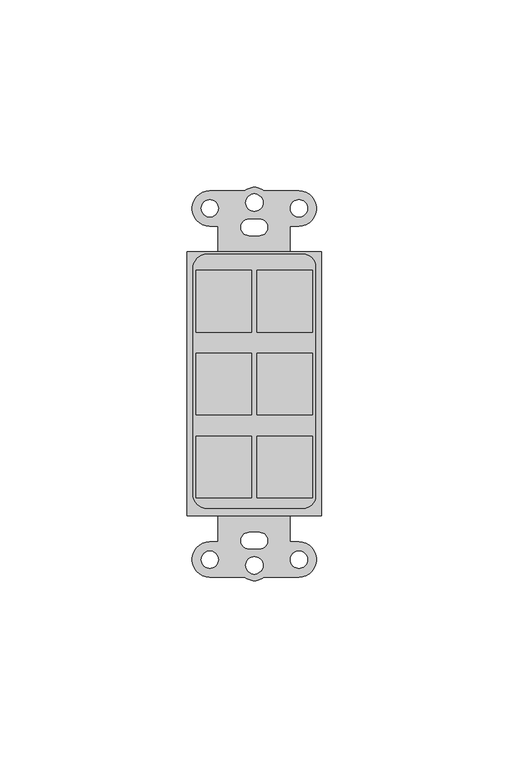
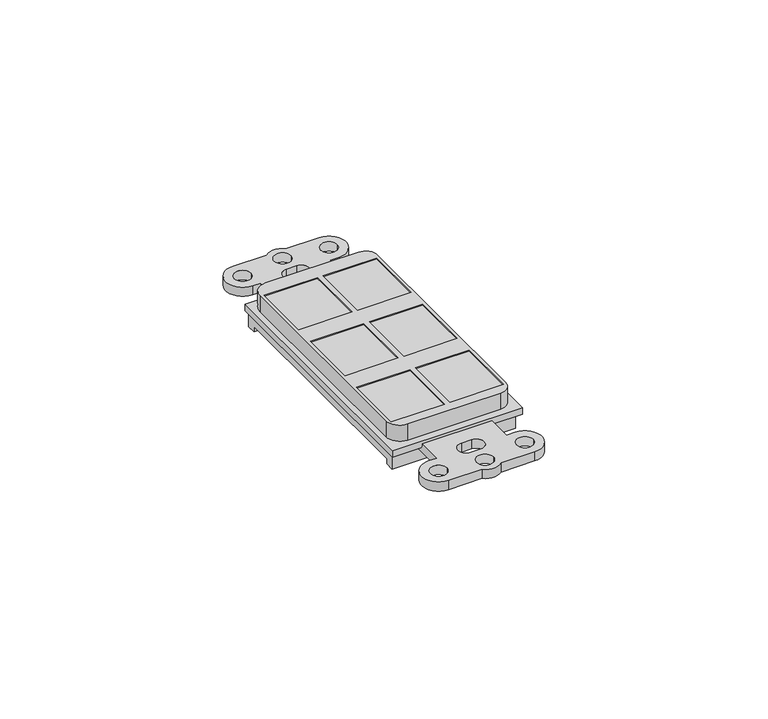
"""IFC4 building model written with IfcOpenShell, lengths in millimetres: electric appliance geometry, Data_Device-Network-Leviton-QuickPort-Duplex : 6-Ports Floor Box Mounting Bezel, Color Black."""

from ifc_helpers import new_model, si_unit, frame, origin, origin_with_axes, place, context, project, spatial, polyline, circle_curve, outline, extrude, source, transform, mapped, element, save
from ifc_brep_helpers import plane_surface, cylinder_surface, revolved_surface, advanced_brep


def electric_appliance_de9a6db4(model_context):
    return source(origin(), model_context, "Body", "SolidModel", [
        advanced_brep(
        [(-10.0194153, 40.0764273, 8.255), (-35.6225625, 40.0764273, 8.255), (-39.4081, 36.2908898, 8.255), (-39.4081, -23.9315727, 8.255), (-35.6225625, -27.7171102, 8.255), (-10.0194153, -27.7171102, 8.255), (-6.6421, -24.3397948, 8.255), (-6.6421, 36.699112, 8.255), (-38.534975, 35.8221502, 8.255), (-23.802975, 35.8221502, 8.255), (-23.802975, 19.3121502, 8.255), (-38.534975, 19.3121502, 8.255), (-38.534975, 13.6955752, 8.255), (-23.802975, 13.6955752, 8.255), (-23.802975, -2.8144248, 8.255), (-38.534975, -2.8144248, 8.255), (-23.802975, -8.4309998, 8.255), (-23.802975, -24.9409998, 8.255), (-38.534975, -24.9409998, 8.255), (-38.534975, -8.4309998, 8.255), (-22.2631, 35.8221502, 8.255), (-7.5311, 35.8221502, 8.255), (-7.5311, 19.3121502, 8.255), (-22.2631, 19.3121502, 8.255), (-22.2631, 13.6955752, 8.255), (-7.5311, 13.6955752, 8.255), (-7.5311, -2.8144248, 8.255), (-22.2631, -2.8144248, 8.255), (-7.5311, -8.4309998, 8.255), (-7.5311, -24.9409998, 8.255), (-22.2631, -24.9409998, 8.255), (-22.2631, -8.4309998, 8.255), (-32.6771, -36.6462175, 2.667), (-34.9256764, -36.6462175, 2.667), (-34.9256764, -46.0442175, 2.667), (-25.6156329, -46.0442175, 2.667), (-20.3869949, -46.0442175, 2.667), (-11.1131764, -46.0442175, 2.667), (-11.1131764, -36.6462175, 2.667), (-13.4944264, -36.6462175, 2.667), (-13.4944264, -29.7247175, 2.667), (-32.6771, -29.7247175, 2.667), (-24.4501, -38.5287175, 2.667), (-24.4501, -34.1287175, 2.667), (-21.6501, -34.1287175, 2.667), (-21.6501, -38.5287175, 2.667), (-37.2116764, -41.3960175, 2.667), (-32.6396764, -41.3960175, 2.667), (-25.3421446, -42.9327175, 2.667), (-20.7080554, -42.9327175, 2.667), (-13.3991764, -41.3960175, 2.667), (-8.8271764, -41.3960175, 2.667), (-13.4944264, 47.5547825, 2.667), (-11.1131764, 47.5547825, 2.667), (-11.1131764, 56.9527825, 2.667), (-20.3869949, 56.9527825, 2.667), (-25.6156329, 56.9527825, 2.667), (-34.9256764, 56.9527825, 2.667), (-34.9256764, 47.5547825, 2.667), (-32.6771, 47.5547825, 2.667), (-32.6771, 40.7159332, 2.667), (-13.4944264, 40.7159332, 2.667), (-24.4501, 49.4372825, 2.667), (-21.6501, 49.4372825, 2.667), (-21.6501, 45.0372825, 2.667), (-24.4501, 45.0372825, 2.667), (-37.2116764, 52.3045825, 2.667), (-32.6396764, 52.3045825, 2.667), (-25.3421446, 53.8412825, 2.667), (-20.7080554, 53.8412825, 2.667), (-13.3991764, 52.3045825, 2.667), (-8.8271764, 52.3045825, 2.667), (-13.4944264, -36.6462175, 0.0), (-11.1131764, -36.6462175, 0.0), (-11.1131764, -46.0442175, 0.0), (-20.3869949, -46.0442175, 0.0), (-25.6156329, -46.0442175, 0.0), (-34.9256764, -46.0442175, 0.0), (-34.9256764, -36.6462175, 0.0), (-32.6771, -36.6462175, 0.0), (-32.6771, -28.0737175, 0.0), (-13.4944264, -28.0737175, 0.0), (-24.4501, -38.5287175, 0.0), (-21.6501, -38.5287175, 0.0), (-21.6501, -34.1287175, 0.0), (-24.4501, -34.1287175, 0.0), (-37.2116764, -41.3960175, 0.0), (-32.6396764, -41.3960175, 0.0), (-25.3421446, -42.9327175, 0.0), (-20.7080554, -42.9327175, 0.0), (-13.3991764, -41.3960175, 0.0), (-8.8271764, -41.3960175, 0.0), (-32.6771, 47.5547825, 0.0), (-34.9256764, 47.5547825, 0.0), (-34.9256764, 56.9527825, 0.0), (-25.6156329, 56.9527825, 0.0), (-20.3869949, 56.9527825, 0.0), (-11.1131764, 56.9527825, 0.0), (-11.1131764, 47.5547825, 0.0), (-13.4944264, 47.5547825, 0.0), (-13.4944264, 40.5062825, 0.0), (-32.6771, 40.5062825, 0.0), (-24.4501, 49.4372825, 0.0), (-24.4501, 45.0372825, 0.0), (-21.6501, 45.0372825, 0.0), (-21.6501, 49.4372825, 0.0), (-37.2116764, 52.3045825, 0.0), (-32.6396764, 52.3045825, 0.0), (-25.3421446, 53.8412825, 0.0), (-20.7080554, 53.8412825, 0.0), (-13.3991764, 52.3045825, 0.0), (-8.8271764, 52.3045825, 0.0), (-32.6771, -29.7247175, 1.651), (-32.6771, -28.0737175, 1.651), (-13.4944264, -28.0737175, 1.651), (-13.4944264, -29.7247175, 1.651), (-13.4944264, 40.7159332, 1.651), (-13.4944264, 40.5062825, 1.651), (-32.6771, 40.5062825, 1.651), (-32.6771, 40.7159332, 1.651), (-10.0194153, 40.0764273, 3.556), (-35.6225625, 40.0764273, 3.556), (-39.4081, 36.2908898, 3.556), (-39.4081, -23.9315727, 3.556), (-35.6225625, -27.7171102, 3.556), (-10.0194153, -27.7171102, 3.556), (-6.6421, -24.3397948, 3.556), (-6.6421, 36.699112, 3.556), (-40.9321, 40.7159332, 3.556), (-40.9321, -29.7247175, 3.556), (-5.1181, -29.7247175, 3.556), (-5.1181, 40.7159332, 3.556), (-5.1181, 40.7159332, 1.651), (-5.1181, -29.7247175, 1.651), (-6.0071, -28.0737175, 1.651), (-6.0071, 40.5062825, 1.651), (-40.9321, -29.7247175, 1.651), (-40.9321, 40.7159332, 1.651), (-40.0431, 40.5062825, 1.651), (-40.0431, -28.0737175, 1.651), (-23.802975, 35.8221502, -1.651), (-38.534975, 35.8221502, -1.651), (-38.534975, 19.3121502, -1.651), (-23.802975, 19.3121502, -1.651), (-23.802975, 13.6955752, -1.651), (-38.534975, 13.6955752, -1.651), (-38.534975, -2.8144248, -1.651), (-23.802975, -2.8144248, -1.651), (-23.802975, -24.9409998, -1.651), (-23.802975, -8.4309998, -1.651), (-38.534975, -8.4309998, -1.651), (-38.534975, -24.9409998, -1.651), (-7.5311, 35.8221502, -1.651), (-22.2631, 35.8221502, -1.651), (-22.2631, 19.3121502, -1.651), (-7.5311, 19.3121502, -1.651), (-7.5311, 13.6955752, -1.651), (-22.2631, 13.6955752, -1.651), (-22.2631, -2.8144248, -1.651), (-7.5311, -2.8144248, -1.651), (-7.5311, -24.9409998, -1.651), (-7.5311, -8.4309998, -1.651), (-22.2631, -8.4309998, -1.651), (-22.2631, -24.9409998, -1.651), (-6.0071, 40.5062825, -3.175), (-6.0071, -28.0737175, -3.175), (-6.0071, -25.5337175, -3.175), (-6.0071, -25.5337175, -1.651), (-6.0071, 37.9662825, -1.651), (-6.0071, 37.9662825, -3.175), (-40.0431, 40.5062825, -3.175), (-40.0431, 37.9662825, -3.175), (-40.0431, 37.9662825, -1.651), (-40.0431, -25.5337175, -1.651), (-40.0431, -25.5337175, -3.175), (-40.0431, -28.0737175, -3.175)],
        [
            (0, 1),
            (1, 2, circle_curve(frame((-35.6225625, 36.2908898, 8.255), z_axis=(0.0, 0.0, 1.0), x_axis=(1.0, 0.0, 0.0)), 3.7855375)),
            (2, 3),
            (3, 4, circle_curve(frame((-35.6225625, -23.9315727, 8.255), z_axis=(0.0, 0.0, 1.0), x_axis=(1.0, 0.0, 0.0)), 3.7855375)),
            (4, 5),
            (5, 6, circle_curve(frame((-10.0194153, -24.3397948, 8.255), z_axis=(0.0, 0.0, 1.0), x_axis=(1.0, 0.0, 0.0)), 3.3773153)),
            (6, 7),
            (7, 0, circle_curve(frame((-10.0194153, 36.699112, 8.255), z_axis=(0.0, 0.0, 1.0), x_axis=(1.0, 0.0, 0.0)), 3.3773153)),
            (8, 9),
            (9, 10),
            (10, 11),
            (11, 8),
            (12, 13),
            (13, 14),
            (14, 15),
            (15, 12),
            (16, 17),
            (17, 18),
            (18, 19),
            (19, 16),
            (20, 21),
            (21, 22),
            (22, 23),
            (23, 20),
            (24, 25),
            (25, 26),
            (26, 27),
            (27, 24),
            (28, 29),
            (29, 30),
            (30, 31),
            (31, 28),
            (32, 33),
            (33, 34, circle_curve(frame((-34.9256764, -41.3452175, 2.667), z_axis=(0.0, 0.0, 1.0), x_axis=(1.0, 0.0, 0.0)), 4.699)),
            (34, 35),
            (35, 36, circle_curve(frame((-23.0013139, -42.9327175, 2.667), z_axis=(0.0, 0.0, 1.0), x_axis=(1.0, 0.0, 0.0)), 4.064)),
            (36, 37),
            (37, 38, circle_curve(frame((-11.1131764, -41.3452175, 2.667), z_axis=(0.0, 0.0, 1.0), x_axis=(1.0, 0.0, 0.0)), 4.699)),
            (38, 39),
            (39, 40),
            (40, 41),
            (41, 32),
            (42, 43, circle_curve(frame((-24.4501, -36.3287175, 2.667), z_axis=(0.0, 0.0, -1.0), x_axis=(1.0, 0.0, 0.0)), 2.2)),
            (43, 44),
            (44, 45, circle_curve(frame((-21.6501, -36.3287175, 2.667), z_axis=(0.0, 0.0, -1.0), x_axis=(1.0, 0.0, 0.0)), 2.2)),
            (45, 42),
            (46, 47, circle_curve(frame((-34.9256764, -41.3960175, 2.667), z_axis=(0.0, 0.0, -1.0), x_axis=(1.0, 0.0, 0.0)), 2.286)),
            (47, 46, circle_curve(frame((-34.9256764, -41.3960175, 2.667), z_axis=(0.0, 0.0, -1.0), x_axis=(1.0, 0.0, 0.0)), 2.286)),
            (48, 49, circle_curve(frame((-23.0251, -42.9327175, 2.667), z_axis=(0.0, 0.0, -1.0), x_axis=(1.0, 0.0, 0.0)), 2.3170446)),
            (49, 48, circle_curve(frame((-23.0251, -42.9327175, 2.667), z_axis=(0.0, 0.0, -1.0), x_axis=(1.0, 0.0, 0.0)), 2.3170446)),
            (50, 51, circle_curve(frame((-11.1131764, -41.3960175, 2.667), z_axis=(0.0, 0.0, -1.0), x_axis=(1.0, 0.0, 0.0)), 2.286)),
            (51, 50, circle_curve(frame((-11.1131764, -41.3960175, 2.667), z_axis=(0.0, 0.0, -1.0), x_axis=(1.0, 0.0, 0.0)), 2.286)),
            (52, 53),
            (53, 54, circle_curve(frame((-11.1131764, 52.2537825, 2.667), z_axis=(0.0, 0.0, 1.0), x_axis=(1.0, 0.0, 0.0)), 4.699)),
            (54, 55),
            (55, 56, circle_curve(frame((-23.0013139, 53.8412825, 2.667), z_axis=(0.0, 0.0, 1.0), x_axis=(1.0, 0.0, 0.0)), 4.064)),
            (56, 57),
            (57, 58, circle_curve(frame((-34.9256764, 52.2537825, 2.667), z_axis=(0.0, 0.0, 1.0), x_axis=(1.0, 0.0, 0.0)), 4.699)),
            (58, 59),
            (59, 60),
            (60, 61),
            (61, 52),
            (62, 63),
            (63, 64, circle_curve(frame((-21.6501, 47.2372825, 2.667), z_axis=(0.0, 0.0, -1.0), x_axis=(1.0, 0.0, 0.0)), 2.2)),
            (64, 65),
            (65, 62, circle_curve(frame((-24.4501, 47.2372825, 2.667), z_axis=(0.0, 0.0, -1.0), x_axis=(1.0, 0.0, 0.0)), 2.2)),
            (66, 67, circle_curve(frame((-34.9256764, 52.3045825, 2.667), z_axis=(0.0, 0.0, -1.0), x_axis=(1.0, 0.0, 0.0)), 2.286)),
            (67, 66, circle_curve(frame((-34.9256764, 52.3045825, 2.667), z_axis=(0.0, 0.0, -1.0), x_axis=(1.0, 0.0, 0.0)), 2.286)),
            (68, 69, circle_curve(frame((-23.0251, 53.8412825, 2.667), z_axis=(0.0, 0.0, -1.0), x_axis=(1.0, 0.0, 0.0)), 2.3170446)),
            (69, 68, circle_curve(frame((-23.0251, 53.8412825, 2.667), z_axis=(0.0, 0.0, -1.0), x_axis=(1.0, 0.0, 0.0)), 2.3170446)),
            (70, 71, circle_curve(frame((-11.1131764, 52.3045825, 2.667), z_axis=(0.0, 0.0, -1.0), x_axis=(1.0, 0.0, 0.0)), 2.286)),
            (71, 70, circle_curve(frame((-11.1131764, 52.3045825, 2.667), z_axis=(0.0, 0.0, -1.0), x_axis=(1.0, 0.0, 0.0)), 2.286)),
            (72, 73),
            (73, 74, circle_curve(frame((-11.1131764, -41.3452175, 0.0), z_axis=(0.0, 0.0, -1.0), x_axis=(1.0, 0.0, 0.0)), 4.699)),
            (74, 75),
            (75, 76, circle_curve(frame((-23.0013139, -42.9327175, 0.0), z_axis=(0.0, 0.0, -1.0), x_axis=(1.0, 0.0, 0.0)), 4.064)),
            (76, 77),
            (77, 78, circle_curve(frame((-34.9256764, -41.3452175, 0.0), z_axis=(0.0, 0.0, -1.0), x_axis=(1.0, 0.0, 0.0)), 4.699)),
            (78, 79),
            (79, 80),
            (80, 81),
            (81, 72),
            (82, 83),
            (83, 84, circle_curve(frame((-21.6501, -36.3287175, 0.0), z_axis=(0.0, 0.0, 1.0), x_axis=(1.0, 0.0, 0.0)), 2.2)),
            (84, 85),
            (85, 82, circle_curve(frame((-24.4501, -36.3287175, 0.0), z_axis=(0.0, 0.0, 1.0), x_axis=(1.0, 0.0, 0.0)), 2.2)),
            (86, 87, circle_curve(frame((-34.9256764, -41.3960175, 0.0), z_axis=(0.0, 0.0, 1.0), x_axis=(1.0, 0.0, 0.0)), 2.286)),
            (87, 86, circle_curve(frame((-34.9256764, -41.3960175, 0.0), z_axis=(0.0, 0.0, 1.0), x_axis=(1.0, 0.0, 0.0)), 2.286)),
            (88, 89, circle_curve(frame((-23.0251, -42.9327175, 0.0), z_axis=(0.0, 0.0, 1.0), x_axis=(1.0, 0.0, 0.0)), 2.3170446)),
            (89, 88, circle_curve(frame((-23.0251, -42.9327175, 0.0), z_axis=(0.0, 0.0, 1.0), x_axis=(1.0, 0.0, 0.0)), 2.3170446)),
            (90, 91, circle_curve(frame((-11.1131764, -41.3960175, 0.0), z_axis=(0.0, 0.0, 1.0), x_axis=(1.0, 0.0, 0.0)), 2.286)),
            (91, 90, circle_curve(frame((-11.1131764, -41.3960175, 0.0), z_axis=(0.0, 0.0, 1.0), x_axis=(1.0, 0.0, 0.0)), 2.286)),
            (92, 93),
            (93, 94, circle_curve(frame((-34.9256764, 52.2537825, 0.0), z_axis=(0.0, 0.0, -1.0), x_axis=(1.0, 0.0, 0.0)), 4.699)),
            (94, 95),
            (95, 96, circle_curve(frame((-23.0013139, 53.8412825, 0.0), z_axis=(0.0, 0.0, -1.0), x_axis=(1.0, 0.0, 0.0)), 4.064)),
            (96, 97),
            (97, 98, circle_curve(frame((-11.1131764, 52.2537825, 0.0), z_axis=(0.0, 0.0, -1.0), x_axis=(1.0, 0.0, 0.0)), 4.699)),
            (98, 99),
            (99, 100),
            (100, 101),
            (101, 92),
            (102, 103, circle_curve(frame((-24.4501, 47.2372825, 0.0), z_axis=(0.0, 0.0, 1.0), x_axis=(1.0, 0.0, 0.0)), 2.2)),
            (103, 104),
            (104, 105, circle_curve(frame((-21.6501, 47.2372825, 0.0), z_axis=(0.0, 0.0, 1.0), x_axis=(1.0, 0.0, 0.0)), 2.2)),
            (105, 102),
            (106, 107, circle_curve(frame((-34.9256764, 52.3045825, 0.0), z_axis=(0.0, 0.0, 1.0), x_axis=(1.0, 0.0, 0.0)), 2.286)),
            (107, 106, circle_curve(frame((-34.9256764, 52.3045825, 0.0), z_axis=(0.0, 0.0, 1.0), x_axis=(1.0, 0.0, 0.0)), 2.286)),
            (108, 109, circle_curve(frame((-23.0251, 53.8412825, 0.0), z_axis=(0.0, 0.0, 1.0), x_axis=(1.0, 0.0, 0.0)), 2.3170446)),
            (109, 108, circle_curve(frame((-23.0251, 53.8412825, 0.0), z_axis=(0.0, 0.0, 1.0), x_axis=(1.0, 0.0, 0.0)), 2.3170446)),
            (110, 111, circle_curve(frame((-11.1131764, 52.3045825, 0.0), z_axis=(0.0, 0.0, 1.0), x_axis=(1.0, 0.0, 0.0)), 2.286)),
            (111, 110, circle_curve(frame((-11.1131764, 52.3045825, 0.0), z_axis=(0.0, 0.0, 1.0), x_axis=(1.0, 0.0, 0.0)), 2.286)),
            (42, 82),
            (85, 43),
            (84, 44),
            (83, 45),
            (62, 102),
            (105, 63),
            (104, 64),
            (103, 65),
            (79, 32),
            (41, 112),
            (112, 113),
            (113, 80),
            (78, 33),
            (77, 34),
            (76, 35),
            (75, 36),
            (74, 37),
            (73, 38),
            (72, 39),
            (81, 114),
            (114, 115),
            (115, 40),
            (46, 86),
            (87, 47),
            (48, 88),
            (89, 49),
            (50, 90),
            (91, 51),
            (99, 52),
            (61, 116),
            (116, 117),
            (117, 100),
            (98, 53),
            (97, 54),
            (96, 55),
            (95, 56),
            (94, 57),
            (93, 58),
            (92, 59),
            (101, 118),
            (118, 119),
            (119, 60),
            (66, 106),
            (107, 67),
            (68, 108),
            (109, 69),
            (70, 110),
            (111, 71),
            (0, 120),
            (120, 121),
            (121, 1),
            (121, 122, circle_curve(frame((-35.6225625, 36.2908898, 3.556), z_axis=(0.0, 0.0, 1.0), x_axis=(1.0, 0.0, 0.0)), 3.7855375)),
            (122, 2),
            (122, 123),
            (123, 3),
            (123, 124, circle_curve(frame((-35.6225625, -23.9315727, 3.556), z_axis=(0.0, 0.0, 1.0), x_axis=(1.0, 0.0, 0.0)), 3.7855375)),
            (124, 4),
            (124, 125),
            (125, 5),
            (125, 126, circle_curve(frame((-10.0194153, -24.3397948, 3.556), z_axis=(0.0, 0.0, 1.0), x_axis=(1.0, 0.0, 0.0)), 3.3773153)),
            (126, 6),
            (126, 127),
            (127, 7),
            (127, 120, circle_curve(frame((-10.0194153, 36.699112, 3.556), z_axis=(0.0, 0.0, 1.0), x_axis=(1.0, 0.0, 0.0)), 3.3773153)),
            (128, 129),
            (129, 130),
            (130, 131),
            (131, 128),
            (132, 133),
            (133, 115),
            (114, 134),
            (134, 135),
            (135, 117),
            (116, 132),
            (136, 137),
            (137, 119),
            (118, 138),
            (138, 139),
            (139, 113),
            (112, 136),
            (128, 137),
            (136, 129),
            (133, 130),
            (132, 131),
            (140, 9),
            (8, 141),
            (141, 140),
            (11, 142),
            (142, 141),
            (10, 143),
            (143, 142),
            (140, 143),
            (144, 13),
            (12, 145),
            (145, 144),
            (15, 146),
            (146, 145),
            (14, 147),
            (147, 146),
            (144, 147),
            (148, 17),
            (16, 149),
            (149, 148),
            (19, 150),
            (150, 149),
            (18, 151),
            (151, 150),
            (148, 151),
            (152, 21),
            (20, 153),
            (153, 152),
            (23, 154),
            (154, 153),
            (22, 155),
            (155, 154),
            (152, 155),
            (156, 25),
            (24, 157),
            (157, 156),
            (27, 158),
            (158, 157),
            (26, 159),
            (159, 158),
            (156, 159),
            (160, 29),
            (28, 161),
            (161, 160),
            (31, 162),
            (162, 161),
            (30, 163),
            (163, 162),
            (160, 163),
            (164, 135),
            (134, 165),
            (165, 166),
            (166, 167),
            (167, 168),
            (168, 169),
            (169, 164),
            (170, 171),
            (171, 172),
            (172, 173),
            (173, 174),
            (174, 175),
            (175, 139),
            (138, 170),
            (164, 170),
            (175, 165),
            (174, 166),
            (173, 167),
            (172, 168),
            (171, 169),
        ],
        [
            plane_surface(frame((-35.6225625, 40.0764273, 8.255), z_axis=(0.0, 0.0, 1.0), x_axis=(-1.0, 0.0, 0.0))),
            plane_surface(frame((-22.2501, -36.3287175, 2.667), z_axis=(0.0, 0.0, 1.0), x_axis=(0.0, -1.0, 0.0))),
            plane_surface(frame((-22.2501, -36.3287175, 0.0), z_axis=(0.0, 0.0, -1.0), x_axis=(0.0, 1.0, 0.0))),
            revolved_surface(polyline([(-22.2501, -36.3287175, 0.0), (-22.2501, -36.3287175, 2.667)]), (-24.4501, -36.3287175, 0.0), (0.0, 0.0, -1.0)),
            plane_surface(frame((-24.4501, -34.1287175, 2.667), z_axis=(0.0, -1.0, 0.0), x_axis=(0.0, 0.0, -1.0))),
            revolved_surface(polyline([(-19.4501, -36.3287175, 0.0), (-19.4501, -36.3287175, 2.667)]), (-21.6501, -36.3287175, 0.0), (0.0, 0.0, -1.0)),
            plane_surface(frame((-21.6501, -38.5287175, 2.667), z_axis=(0.0, 1.0, 0.0), x_axis=(0.0, 0.0, -1.0))),
            plane_surface(frame((-24.4501, 49.4372825, 2.667), z_axis=(0.0, -1.0, 0.0), x_axis=(0.0, 0.0, -1.0))),
            revolved_surface(polyline([(-19.4501, 47.2372825, 0.0), (-19.4501, 47.2372825, 2.667)]), (-21.6501, 47.2372825, 0.0), (0.0, 0.0, -1.0)),
            plane_surface(frame((-21.6501, 45.0372825, 2.667), z_axis=(0.0, 1.0, 0.0), x_axis=(0.0, 0.0, -1.0))),
            revolved_surface(polyline([(-22.2501, 47.2372825, 0.0), (-22.2501, 47.2372825, 2.667)]), (-24.4501, 47.2372825, 0.0), (0.0, 0.0, -1.0)),
            plane_surface(frame((-32.6771, -25.4893681, 2.667), z_axis=(-1.0, 0.0, 0.0), x_axis=(0.0, 0.0, -1.0))),
            plane_surface(frame((-32.6771, -36.6462175, 2.667), z_axis=(0.0, 1.0, 0.0), x_axis=(0.0, 0.0, -1.0))),
            cylinder_surface(frame((-34.9256764, -41.3452175, 0.0), z_axis=(0.0, 0.0, 1.0), x_axis=(1.0, 0.0, 0.0)), 4.699),
            plane_surface(frame((-34.9256764, -46.0442175, 2.667), z_axis=(0.0, -1.0, 0.0), x_axis=(0.0, 0.0, -1.0))),
            cylinder_surface(frame((-23.0013139, -42.9327175, 0.0), z_axis=(0.0, 0.0, 1.0), x_axis=(1.0, 0.0, 0.0)), 4.064),
            plane_surface(frame((-20.3869949, -46.0442175, 2.667), z_axis=(0.0, -1.0, 0.0), x_axis=(0.0, 0.0, -1.0))),
            cylinder_surface(frame((-11.1131764, -41.3452175, 0.0), z_axis=(0.0, 0.0, 1.0), x_axis=(1.0, 0.0, 0.0)), 4.699),
            plane_surface(frame((-11.1131764, -36.6462175, 2.667), z_axis=(-1.119104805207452e-12, 1.0, 0.0), x_axis=(0.0, 0.0, -1.0))),
            plane_surface(frame((-13.4944264, -36.6462175, 2.667), z_axis=(1.0, 0.0, 0.0), x_axis=(0.0, 0.0, -1.0))),
            revolved_surface(polyline([(-32.6396764, -41.3960175, 0.0), (-32.6396764, -41.3960175, 2.667)]), (-34.9256764, -41.3960175, 0.0), (0.0, 0.0, -1.0)),
            revolved_surface(polyline([(-20.7080554, -42.9327175, 0.0), (-20.7080554, -42.9327175, 2.667)]), (-23.0251, -42.9327175, 0.0), (0.0, 0.0, -1.0)),
            revolved_surface(polyline([(-8.8271764, -41.3960175, 0.0), (-8.8271764, -41.3960175, 2.667)]), (-11.1131764, -41.3960175, 0.0), (0.0, 0.0, -1.0)),
            plane_surface(frame((-13.4944264, 36.3979332, 2.667), z_axis=(1.0, 0.0, 0.0), x_axis=(0.0, 0.0, -1.0))),
            plane_surface(frame((-13.4944264, 47.5547825, 2.667), z_axis=(1.1581846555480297e-12, -1.0, 0.0), x_axis=(0.0, 0.0, -1.0))),
            cylinder_surface(frame((-11.1131764, 52.2537825, 0.0), z_axis=(0.0, 0.0, 1.0), x_axis=(1.0, 0.0, 0.0)), 4.699),
            plane_surface(frame((-11.1131764, 56.9527825, 2.667), z_axis=(0.0, 1.0, 0.0), x_axis=(0.0, 0.0, -1.0))),
            cylinder_surface(frame((-23.0013139, 53.8412825, 0.0), z_axis=(0.0, 0.0, 1.0), x_axis=(1.0, 0.0, 0.0)), 4.064),
            plane_surface(frame((-25.6156329, 56.9527825, 2.667), z_axis=(0.0, 1.0, 0.0), x_axis=(0.0, 0.0, -1.0))),
            cylinder_surface(frame((-34.9256764, 52.2537825, 0.0), z_axis=(0.0, 0.0, 1.0), x_axis=(1.0, 0.0, 0.0)), 4.699),
            plane_surface(frame((-34.9256764, 47.5547825, 2.667), z_axis=(0.0, -1.0, 0.0), x_axis=(0.0, 0.0, -1.0))),
            plane_surface(frame((-32.6771, 47.5547825, 2.667), z_axis=(-1.0, 0.0, 0.0), x_axis=(0.0, 0.0, -1.0))),
            revolved_surface(polyline([(-32.6396764, 52.3045825, 0.0), (-32.6396764, 52.3045825, 2.667)]), (-34.9256764, 52.3045825, 0.0), (0.0, 0.0, -1.0)),
            revolved_surface(polyline([(-20.7080554, 53.8412825, 0.0), (-20.7080554, 53.8412825, 2.667)]), (-23.0251, 53.8412825, 0.0), (0.0, 0.0, -1.0)),
            revolved_surface(polyline([(-8.8271764, 52.3045825, 0.0), (-8.8271764, 52.3045825, 2.667)]), (-11.1131764, 52.3045825, 0.0), (0.0, 0.0, -1.0)),
            plane_surface(frame((-10.0194153, 40.0764273, 8.255), z_axis=(0.0, 1.0, 0.0), x_axis=(0.0, 0.0, -1.0))),
            cylinder_surface(frame((-35.6225625, 36.2908898, 3.556), z_axis=(0.0, 0.0, 1.0), x_axis=(1.0, 0.0, 0.0)), 3.7855375),
            plane_surface(frame((-39.4081, 36.2908898, 8.255), z_axis=(-1.0, 0.0, 0.0), x_axis=(0.0, 0.0, -1.0))),
            cylinder_surface(frame((-35.6225625, -23.9315727, 3.556), z_axis=(0.0, 0.0, 1.0), x_axis=(1.0, 0.0, 0.0)), 3.7855375),
            plane_surface(frame((-35.6225625, -27.7171102, 8.255), z_axis=(0.0, -1.0, 0.0), x_axis=(0.0, 0.0, -1.0))),
            cylinder_surface(frame((-10.0194153, -24.3397948, 3.556), z_axis=(0.0, 0.0, 1.0), x_axis=(1.0, 0.0, 0.0)), 3.3773153),
            plane_surface(frame((-6.6421, -24.3397948, 8.255), z_axis=(1.0, 0.0, 0.0), x_axis=(0.0, 0.0, -1.0))),
            cylinder_surface(frame((-10.0194153, 36.699112, 3.556), z_axis=(0.0, 0.0, 1.0), x_axis=(1.0, 0.0, 0.0)), 3.3773153),
            plane_surface(frame((-40.9321, -28.9627175, 3.556), z_axis=(0.0, 0.0, 1.0), x_axis=(0.0, -1.0, 0.0))),
            plane_surface(frame((-40.9321, -28.9627175, 1.651), z_axis=(0.0, 0.0, -1.0), x_axis=(0.0, 1.0, 0.0))),
            plane_surface(frame((-40.9321, 40.7159332, 3.556), z_axis=(-1.0, 0.0, 0.0), x_axis=(0.0, 0.0, -1.0))),
            plane_surface(frame((-40.9321, -29.7247175, 3.556), z_axis=(0.0, -1.0, 0.0), x_axis=(0.0, 0.0, -1.0))),
            plane_surface(frame((-5.1181, -29.7247175, 3.556), z_axis=(1.0, 0.0, 0.0), x_axis=(0.0, 0.0, -1.0))),
            plane_surface(frame((-5.1181, 40.7159332, 3.556), z_axis=(0.0, 1.0, 0.0), x_axis=(0.0, 0.0, -1.0))),
            plane_surface(frame((-23.802975, 35.8221502, 8.255), z_axis=(0.0, -1.0, 0.0), x_axis=(0.0, 0.0, -1.0))),
            plane_surface(frame((-38.534975, 35.8221502, 8.255), z_axis=(1.0, 0.0, 0.0), x_axis=(0.0, 0.0, -1.0))),
            plane_surface(frame((-38.534975, 19.3121502, 8.255), z_axis=(0.0, 1.0, 0.0), x_axis=(0.0, 0.0, -1.0))),
            plane_surface(frame((-23.802975, 19.3121502, 8.255), z_axis=(-1.0, 0.0, 0.0), x_axis=(0.0, 0.0, -1.0))),
            plane_surface(frame((-23.802975, 13.6955752, 8.255), z_axis=(0.0, -1.0, 0.0), x_axis=(0.0, 0.0, -1.0))),
            plane_surface(frame((-38.534975, 13.6955752, 8.255), z_axis=(1.0, 0.0, 0.0), x_axis=(0.0, 0.0, -1.0))),
            plane_surface(frame((-38.534975, -2.8144248, 8.255), z_axis=(0.0, 1.0, 0.0), x_axis=(0.0, 0.0, -1.0))),
            plane_surface(frame((-23.802975, -2.8144248, 8.255), z_axis=(-1.0, 0.0, 0.0), x_axis=(0.0, 0.0, -1.0))),
            plane_surface(frame((-23.802975, -24.9409998, 8.255), z_axis=(-1.0, 0.0, 0.0), x_axis=(0.0, 0.0, -1.0))),
            plane_surface(frame((-23.802975, -8.4309998, 8.255), z_axis=(0.0, -1.0, 0.0), x_axis=(0.0, 0.0, -1.0))),
            plane_surface(frame((-38.534975, -8.4309998, 8.255), z_axis=(1.0, 0.0, 0.0), x_axis=(0.0, 0.0, -1.0))),
            plane_surface(frame((-38.534975, -24.9409998, 8.255), z_axis=(0.0, 1.0, 0.0), x_axis=(0.0, 0.0, -1.0))),
            plane_surface(frame((-7.5311, 35.8221502, 8.255), z_axis=(0.0, -1.0, 0.0), x_axis=(0.0, 0.0, -1.0))),
            plane_surface(frame((-22.2631, 35.8221502, 8.255), z_axis=(1.0, 0.0, 0.0), x_axis=(0.0, 0.0, -1.0))),
            plane_surface(frame((-22.2631, 19.3121502, 8.255), z_axis=(0.0, 1.0, 0.0), x_axis=(0.0, 0.0, -1.0))),
            plane_surface(frame((-7.5311, 19.3121502, 8.255), z_axis=(-1.0, 0.0, 0.0), x_axis=(0.0, 0.0, -1.0))),
            plane_surface(frame((-7.5311, 13.6955752, 8.255), z_axis=(0.0, -1.0, 0.0), x_axis=(0.0, 0.0, -1.0))),
            plane_surface(frame((-22.2631, 13.6955752, 8.255), z_axis=(1.0, 0.0, 0.0), x_axis=(0.0, 0.0, -1.0))),
            plane_surface(frame((-22.2631, -2.8144248, 8.255), z_axis=(0.0, 1.0, 0.0), x_axis=(0.0, 0.0, -1.0))),
            plane_surface(frame((-7.5311, -2.8144248, 8.255), z_axis=(-1.0, 0.0, 0.0), x_axis=(0.0, 0.0, -1.0))),
            plane_surface(frame((-7.5311, -24.9409998, 8.255), z_axis=(-1.0, 0.0, 0.0), x_axis=(0.0, 0.0, -1.0))),
            plane_surface(frame((-7.5311, -8.4309998, 8.255), z_axis=(0.0, -1.0, 0.0), x_axis=(0.0, 0.0, -1.0))),
            plane_surface(frame((-22.2631, -8.4309998, 8.255), z_axis=(1.0, 0.0, 0.0), x_axis=(0.0, 0.0, -1.0))),
            plane_surface(frame((-22.2631, -24.9409998, 8.255), z_axis=(0.0, 1.0, 0.0), x_axis=(0.0, 0.0, -1.0))),
            plane_surface(frame((-6.0071, 40.5062825, 1.651), z_axis=(1.0, 0.0, 0.0), x_axis=(0.0, 0.0, 1.0))),
            plane_surface(frame((-40.0431, 40.5062825, 1.651), z_axis=(-1.0, 0.0, 0.0), x_axis=(0.0, 0.0, -1.0))),
            plane_surface(frame((-6.0071, 40.5062825, -3.175), z_axis=(0.0, 1.0, 0.0), x_axis=(-1.0, 0.0, 0.0))),
            plane_surface(frame((-6.0071, -28.0737175, 1.651), z_axis=(0.0, -1.0, 0.0), x_axis=(-1.0, 0.0, 0.0))),
            plane_surface(frame((-6.0071, -28.0737175, -3.175), z_axis=(0.0, 0.0, -1.0), x_axis=(-1.0, 0.0, 0.0))),
            plane_surface(frame((-6.0071, -25.5337175, -3.175), z_axis=(0.0, 1.0, 0.0), x_axis=(-1.0, 0.0, 0.0))),
            plane_surface(frame((-6.0071, -25.5337175, -1.651), z_axis=(0.0, 0.0, -1.0), x_axis=(-1.0, 0.0, 0.0))),
            plane_surface(frame((-6.0071, 37.9662825, -1.651), z_axis=(0.0, -1.0, 0.0), x_axis=(-1.0, 0.0, 0.0))),
            plane_surface(frame((-6.0071, 37.9662825, -3.175), z_axis=(0.0, 0.0, -1.0), x_axis=(-1.0, 0.0, 0.0))),
        ],
        [
            (0, [[1, 2, 3, 4, 5, 6, 7, 8], [9, 10, 11, 12], [13, 14, 15, 16], [17, 18, 19, 20], [21, 22, 23, 24], [25, 26, 27, 28], [29, 30, 31, 32]]),
            (1, [[33, 34, 35, 36, 37, 38, 39, 40, 41, 42], [43, 44, 45, 46], [47, 48], [49, 50], [51, 52]]),
            (1, [[53, 54, 55, 56, 57, 58, 59, 60, 61, 62], [63, 64, 65, 66], [67, 68], [69, 70], [71, 72]]),
            (2, [[73, 74, 75, 76, 77, 78, 79, 80, 81, 82], [83, 84, 85, 86], [87, 88], [89, 90], [91, 92]]),
            (2, [[93, 94, 95, 96, 97, 98, 99, 100, 101, 102], [103, 104, 105, 106], [107, 108], [109, 110], [111, 112]]),
            (3, [[-43, 113, -86, 114]]),
            (4, [[-44, -114, -85, 115]]),
            (5, [[-45, -115, -84, 116]]),
            (6, [[-46, -116, -83, -113]]),
            (7, [[-63, 117, -106, 118]]),
            (8, [[-64, -118, -105, 119]]),
            (9, [[-65, -119, -104, 120]]),
            (10, [[-66, -120, -103, -117]]),
            (11, [[121, -42, 122, 123, 124, -80]]),
            (12, [[-33, -121, -79, 125]]),
            (13, [[-34, -125, -78, 126]]),
            (14, [[-35, -126, -77, 127]]),
            (15, [[-36, -127, -76, 128]]),
            (16, [[-37, -128, -75, 129]]),
            (17, [[-38, -129, -74, 130]]),
            (18, [[-39, -130, -73, 131]]),
            (19, [[-131, -82, 132, 133, 134, -40]]),
            (20, [[-47, 135, -88, 136]]),
            (20, [[-48, -136, -87, -135]]),
            (21, [[-49, 137, -90, 138]]),
            (21, [[-50, -138, -89, -137]]),
            (22, [[-51, 139, -92, 140]]),
            (22, [[-52, -140, -91, -139]]),
            (23, [[141, -62, 142, 143, 144, -100]]),
            (24, [[-53, -141, -99, 145]]),
            (25, [[-54, -145, -98, 146]]),
            (26, [[-55, -146, -97, 147]]),
            (27, [[-56, -147, -96, 148]]),
            (28, [[-57, -148, -95, 149]]),
            (29, [[-58, -149, -94, 150]]),
            (30, [[-59, -150, -93, 151]]),
            (31, [[-151, -102, 152, 153, 154, -60]]),
            (32, [[-67, 155, -108, 156]]),
            (32, [[-68, -156, -107, -155]]),
            (33, [[-69, 157, -110, 158]]),
            (33, [[-70, -158, -109, -157]]),
            (34, [[-71, 159, -112, 160]]),
            (34, [[-72, -160, -111, -159]]),
            (35, [[-1, 161, 162, 163]]),
            (36, [[-2, -163, 164, 165]]),
            (37, [[-3, -165, 166, 167]]),
            (38, [[-4, -167, 168, 169]]),
            (39, [[-5, -169, 170, 171]]),
            (40, [[-6, -171, 172, 173]]),
            (41, [[-7, -173, 174, 175]]),
            (42, [[-8, -175, 176, -161]]),
            (43, [[177, 178, 179, 180], [-162, -176, -174, -172, -170, -168, -166, -164]]),
            (44, [[181, 182, -133, 183, 184, 185, -143, 186]]),
            (44, [[187, 188, -153, 189, 190, 191, -123, 192]]),
            (45, [[-177, 193, -187, 194]]),
            (46, [[-178, -194, -192, -122, -41, -134, -182, 195]]),
            (47, [[-179, -195, -181, 196]]),
            (48, [[-180, -196, -186, -142, -61, -154, -188, -193]]),
            (49, [[197, -9, 198, 199]]),
            (50, [[-198, -12, 200, 201]]),
            (51, [[-200, -11, 202, 203]]),
            (52, [[-197, 204, -202, -10]]),
            (53, [[205, -13, 206, 207]]),
            (54, [[-206, -16, 208, 209]]),
            (55, [[-208, -15, 210, 211]]),
            (56, [[-205, 212, -210, -14]]),
            (57, [[213, -17, 214, 215]]),
            (58, [[-214, -20, 216, 217]]),
            (59, [[-216, -19, 218, 219]]),
            (60, [[-213, 220, -218, -18]]),
            (61, [[221, -21, 222, 223]]),
            (62, [[-222, -24, 224, 225]]),
            (63, [[-224, -23, 226, 227]]),
            (64, [[-221, 228, -226, -22]]),
            (65, [[229, -25, 230, 231]]),
            (66, [[-230, -28, 232, 233]]),
            (67, [[-232, -27, 234, 235]]),
            (68, [[-229, 236, -234, -26]]),
            (69, [[237, -29, 238, 239]]),
            (70, [[-238, -32, 240, 241]]),
            (71, [[-240, -31, 242, 243]]),
            (72, [[-237, 244, -242, -30]]),
            (73, [[245, -184, 246, 247, 248, 249, 250, 251]]),
            (74, [[252, 253, 254, 255, 256, 257, -190, 258]]),
            (75, [[-245, 259, -258, -189, -152, -101, -144, -185]]),
            (76, [[-246, -183, -132, -81, -124, -191, -257, 260]]),
            (77, [[-247, -260, -256, 261]]),
            (78, [[-248, -261, -255, 262]]),
            (79, [[-249, -262, -254, 263], [-199, -201, -203, -204], [-207, -209, -211, -212], [-215, -217, -219, -220], [-223, -225, -227, -228], [-231, -233, -235, -236], [-239, -241, -243, -244]]),
            (80, [[-250, -263, -253, 264]]),
            (81, [[-251, -264, -252, -259]]),
        ],
    ),
        extrude(outline(polyline([(-38.534975, 35.8221502), (-23.802975, 35.8221502), (-23.802975, 19.3121502), (-38.534975, 19.3121502), (-38.534975, 35.8221502)])), origin_with_axes(), (0.0, 0.0, 1.0), 8.255),
        extrude(outline(polyline([(-22.2631, 35.8221502), (-7.5311, 35.8221502), (-7.5311, 19.3121502), (-22.2631, 19.3121502), (-22.2631, 35.8221502)])), origin_with_axes(), (0.0, 0.0, 1.0), 8.255),
        extrude(outline(polyline([(-22.2631, 13.6955752), (-7.5311, 13.6955752), (-7.5311, -2.8144248), (-22.2631, -2.8144248), (-22.2631, 13.6955752)])), origin_with_axes(), (0.0, 0.0, 1.0), 8.255),
        extrude(outline(polyline([(-23.802975, 13.6955752), (-23.802975, -2.8144248), (-38.534975, -2.8144248), (-38.534975, 13.6955752), (-23.802975, 13.6955752)])), origin_with_axes(), (0.0, 0.0, 1.0), 8.255),
        extrude(outline(polyline([(-38.534975, -24.9409998), (-38.534975, -8.4309998), (-23.802975, -8.4309998), (-23.802975, -24.9409998), (-38.534975, -24.9409998)])), origin_with_axes(), (0.0, 0.0, 1.0), 8.255),
        extrude(outline(polyline([(-22.2631, -24.9409998), (-22.2631, -8.4309998), (-7.5311, -8.4309998), (-7.5311, -24.9409998), (-22.2631, -24.9409998)])), origin_with_axes(), (0.0, 0.0, 1.0), 8.255),
    ])


if __name__ == "__main__":
    model = new_model("IFC4")
    model_context = context("Model", 3, world=origin())
    ifc_project = project(units=[si_unit("LENGTHUNIT", "METRE", prefix="MILLI")], contexts=[model_context])
    site = spatial("IfcSite", under=ifc_project)
    building = spatial("IfcBuilding", under=site)
    placement = place(None, origin())
    electric_appliance_shape = electric_appliance_de9a6db4(model_context)
    element("IfcElectricAppliance", 1, ObjectType="Data_Device-Network-Leviton-QuickPort-Duplex : 6-Ports Floor Box Mounting Bezel, Color Black", at=placement, inside=building, context=model_context, shape_type="MappedRepresentation", body=[
        mapped(electric_appliance_shape, transform((0.0, 0.0, 0.0), x_axis=(1.0, 0.0, 0.0), y_axis=(0.0, 1.0, 0.0), z_axis=(0.0, 0.0, 1.0))),
    ])
    save(model, "model.ifc")
